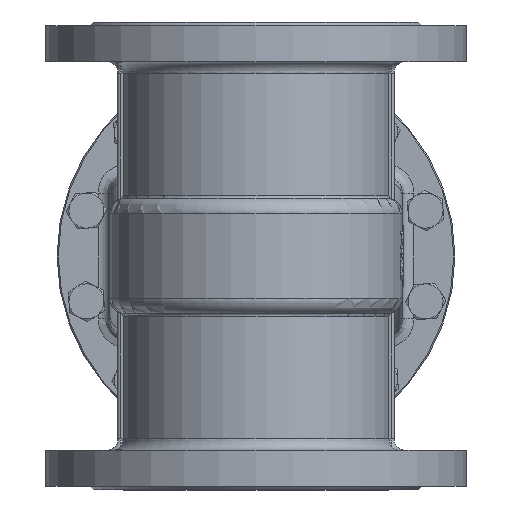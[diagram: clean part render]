
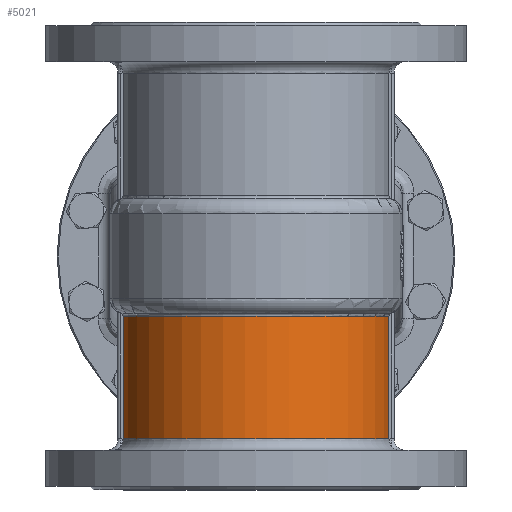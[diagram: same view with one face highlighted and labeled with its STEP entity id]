
A CAD part, front view. The second image highlights one B-rep face of the part: STEP entity #5021.
In plain terms, the highlighted cylindrical face has radius 115 mm (diameter 230 mm), a partial arc.
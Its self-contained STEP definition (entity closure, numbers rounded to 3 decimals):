
#5021=ADVANCED_FACE('',(#17401),#17403,.T.);
#17401=FACE_BOUND('',#17402,.T.);
#17402=EDGE_LOOP('',(#25170,#25171,#25172,#25173));
#17403=CYLINDRICAL_SURFACE('',#17404,115.);
#17404=AXIS2_PLACEMENT_3D('',#17405,#17406,#17407);
#17405=CARTESIAN_POINT('',(0.,0.,-141.));
#17406=DIRECTION('',(0.,0.,1.));
#17407=DIRECTION('',(1.,0.,0.));
#25170=ORIENTED_EDGE('',*,*,#29183,.F.);
#25171=ORIENTED_EDGE('',*,*,#29001,.T.);
#25172=ORIENTED_EDGE('',*,*,#28997,.F.);
#25173=ORIENTED_EDGE('',*,*,#28994,.F.);
#28994=EDGE_CURVE('',#34502,#34505,#34506,.T.);
#28997=EDGE_CURVE('',#34505,#34509,#34510,.T.);
#29001=EDGE_CURVE('',#34513,#34509,#34516,.T.);
#29183=EDGE_CURVE('',#34513,#34502,#34785,.F.);
#34502=VERTEX_POINT('',#70171);
#34505=VERTEX_POINT('',#70176);
#34506=LINE('',#70177,#70178);
#34509=VERTEX_POINT('',#70261);
#34510=CIRCLE('',#70262,115.);
#34513=VERTEX_POINT('',#70337);
#34516=LINE('',#70344,#70345);
#34785=CIRCLE('',#72000,115.);
#70171=CARTESIAN_POINT('',(-113.661,-17.5,-156.));
#70176=CARTESIAN_POINT('',(-113.661,-17.5,-51.492));
#70177=CARTESIAN_POINT('',(-113.661,-17.5,-156.));
#70178=VECTOR('',#70179,1.);
#70179=DIRECTION('',(0.,0.,1.));
#70261=CARTESIAN_POINT('',(113.661,-17.5,-51.492));
#70262=AXIS2_PLACEMENT_3D('',#70263,#70264,#70265);
#70263=CARTESIAN_POINT('',(0.,0.,-51.492));
#70264=DIRECTION('',(0.,0.,1.));
#70265=DIRECTION('',(-0.988,-0.152,0.));
#70337=CARTESIAN_POINT('',(113.661,-17.5,-156.));
#70344=CARTESIAN_POINT('',(113.661,-17.5,-156.));
#70345=VECTOR('',#70346,1.);
#70346=DIRECTION('',(0.,0.,1.));
#72000=AXIS2_PLACEMENT_3D('',#72001,#72002,#72003);
#72001=CARTESIAN_POINT('',(0.,0.,-156.));
#72002=DIRECTION('',(0.,0.,1.));
#72003=DIRECTION('',(-0.988,-0.152,0.));
